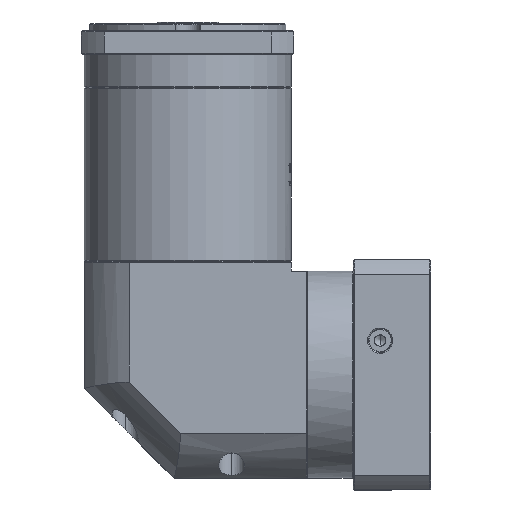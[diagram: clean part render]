
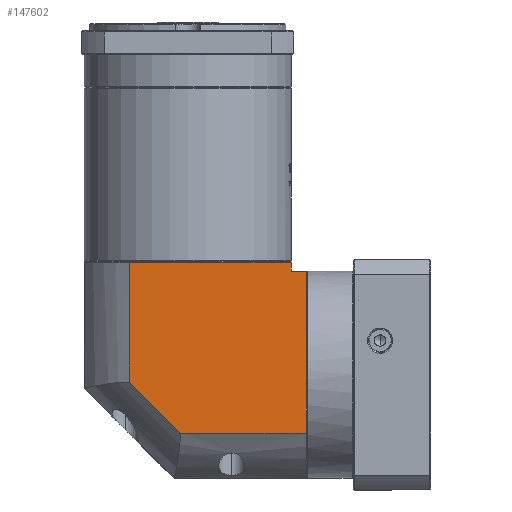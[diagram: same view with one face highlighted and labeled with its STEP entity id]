
A CAD part, left-side view. The second image highlights one B-rep face of the part: STEP entity #147602.
In plain terms, the highlighted planar face has unit normal (-1, 0, 0).
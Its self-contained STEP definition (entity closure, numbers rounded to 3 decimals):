
#2297 = VERTEX_POINT ( 'NONE', #14582 ) ;
#7801 = VECTOR ( 'NONE', #102331, 1000. ) ;
#8442 = DIRECTION ( 'NONE',  ( 0., 1., 0. ) ) ;
#9651 = CARTESIAN_POINT ( 'NONE',  ( -280.862, 22.563, -24.542 ) ) ;
#9747 = DIRECTION ( 'NONE',  ( 0., 0., -1. ) ) ;
#14582 = CARTESIAN_POINT ( 'NONE',  ( -280.862, -2.538, 70.358 ) ) ;
#15943 = DIRECTION ( 'NONE',  ( 0., 0., 1. ) ) ;
#18975 = CARTESIAN_POINT ( 'NONE',  ( -280.862, -100.837, 65.358 ) ) ;
#24129 = VERTEX_POINT ( 'NONE', #125156 ) ;
#28008 = VECTOR ( 'NONE', #159755, 1000. ) ;
#28033 = FACE_OUTER_BOUND ( 'NONE', #159081, .T. ) ;
#28500 = EDGE_CURVE ( 'NONE', #2297, #120802, #135611, .T. ) ;
#29493 = EDGE_CURVE ( 'NONE', #24129, #158444, #160717, .T. ) ;
#30852 = ORIENTED_EDGE ( 'NONE', *, *, #29493, .F. ) ;
#30868 = ORIENTED_EDGE ( 'NONE', *, *, #137295, .F. ) ;
#34112 = EDGE_CURVE ( 'NONE', #149022, #24129, #104058, .T. ) ;
#37377 = CARTESIAN_POINT ( 'NONE',  ( -280.862, 22.563, 76.858 ) ) ;
#40074 = ORIENTED_EDGE ( 'NONE', *, *, #34112, .F. ) ;
#40824 = DIRECTION ( 'NONE',  ( 0., -1., 0. ) ) ;
#41540 = LINE ( 'NONE', #52535, #7801 ) ;
#42768 = CARTESIAN_POINT ( 'NONE',  ( -280.862, -92.437, 70.358 ) ) ;
#43253 = ORIENTED_EDGE ( 'NONE', *, *, #69392, .T. ) ;
#51711 = VECTOR ( 'NONE', #15943, 1000. ) ;
#52535 = CARTESIAN_POINT ( 'NONE',  ( -280.862, -30.876, -24.542 ) ) ;
#54469 = ORIENTED_EDGE ( 'NONE', *, *, #60378, .T. ) ;
#56994 = DIRECTION ( 'NONE',  ( 0., 0., 1. ) ) ;
#58486 = VECTOR ( 'NONE', #9747, 1000. ) ;
#60378 = EDGE_CURVE ( 'NONE', #149022, #70240, #123007, .T. ) ;
#61516 = LINE ( 'NONE', #69208, #138731 ) ;
#62319 = CARTESIAN_POINT ( 'NONE',  ( -280.862, -92.437, 65.358 ) ) ;
#69208 = CARTESIAN_POINT ( 'NONE',  ( -280.862, -92.437, -49.642 ) ) ;
#69392 = EDGE_CURVE ( 'NONE', #70240, #120802, #61516, .T. ) ;
#70240 = VERTEX_POINT ( 'NONE', #62319 ) ;
#75514 = ORIENTED_EDGE ( 'NONE', *, *, #28500, .F. ) ;
#89338 = VECTOR ( 'NONE', #8442, 1000. ) ;
#92139 = ORIENTED_EDGE ( 'NONE', *, *, #130348, .F. ) ;
#92890 = CARTESIAN_POINT ( 'NONE',  ( -280.862, -2.538, 76.858 ) ) ;
#97115 = DIRECTION ( 'NONE',  ( 1., 0., 0. ) ) ;
#97232 = LINE ( 'NONE', #92890, #51711 ) ;
#102331 = DIRECTION ( 'NONE',  ( 0., 0.707, 0.707 ) ) ;
#104058 = LINE ( 'NONE', #147640, #58486 ) ;
#105002 = CARTESIAN_POINT ( 'NONE',  ( -280.862, 22.563, 70.358 ) ) ;
#108177 = CARTESIAN_POINT ( 'NONE',  ( -280.862, -2.538, 3.796 ) ) ;
#111400 = CARTESIAN_POINT ( 'NONE',  ( -280.862, -92.437, 65.358 ) ) ;
#120336 = AXIS2_PLACEMENT_3D ( 'NONE', #37377, #97115, #160282 ) ;
#120802 = VERTEX_POINT ( 'NONE', #42768 ) ;
#123007 = LINE ( 'NONE', #111400, #89338 ) ;
#125156 = CARTESIAN_POINT ( 'NONE',  ( -280.862, -100.837, -24.542 ) ) ;
#127680 = VECTOR ( 'NONE', #40824, 1000. ) ;
#130348 = EDGE_CURVE ( 'NONE', #144301, #2297, #97232, .T. ) ;
#135611 = LINE ( 'NONE', #105002, #127680 ) ;
#135925 = PLANE ( 'NONE',  #120336 ) ;
#137016 = CARTESIAN_POINT ( 'NONE',  ( -280.862, -30.876, -24.542 ) ) ;
#137295 = EDGE_CURVE ( 'NONE', #158444, #144301, #41540, .T. ) ;
#138731 = VECTOR ( 'NONE', #56994, 1000. ) ;
#144301 = VERTEX_POINT ( 'NONE', #108177 ) ;
#147602 = ADVANCED_FACE ( 'NONE', ( #28033 ), #135925, .F. ) ;
#147640 = CARTESIAN_POINT ( 'NONE',  ( -280.862, -100.837, 76.858 ) ) ;
#149022 = VERTEX_POINT ( 'NONE', #18975 ) ;
#158444 = VERTEX_POINT ( 'NONE', #137016 ) ;
#159081 = EDGE_LOOP ( 'NONE', ( #92139, #30868, #30852, #40074, #54469, #43253, #75514 ) ) ;
#159755 = DIRECTION ( 'NONE',  ( 0., 1., 0. ) ) ;
#160282 = DIRECTION ( 'NONE',  ( 0., 1., 0. ) ) ;
#160717 = LINE ( 'NONE', #9651, #28008 ) ;
